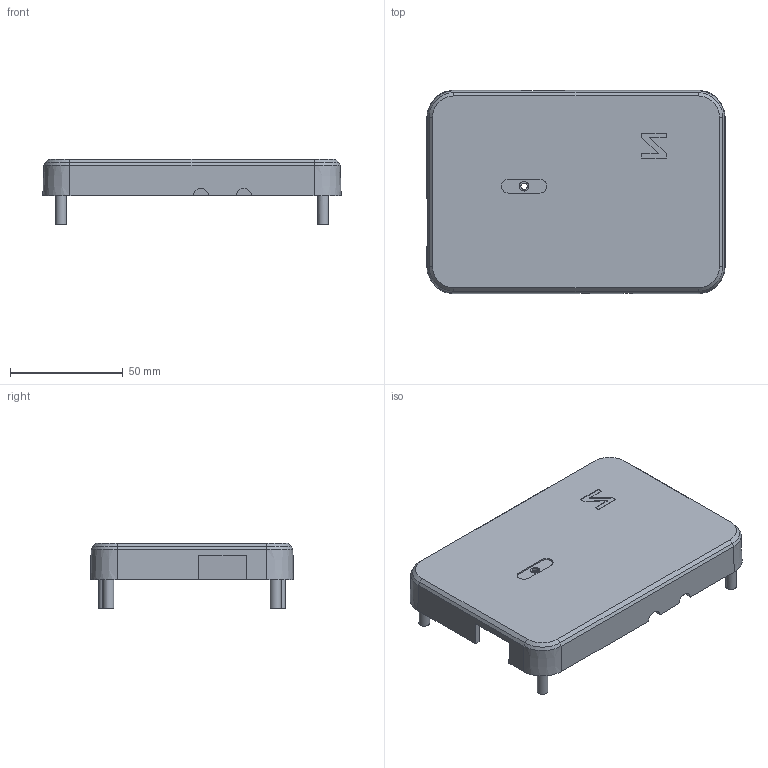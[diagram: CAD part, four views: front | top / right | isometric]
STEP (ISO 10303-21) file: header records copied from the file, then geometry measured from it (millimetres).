
FILE_DESCRIPTION(('FreeCAD Model'),'2;1');
FILE_NAME('Open CASCADE Shape Model','2026-10-24T11:59:21',('FreeCAD'),( 'FreeCAD'),'Open CASCADE STEP processor 7.8','FreeCAD','Unknown');
FILE_SCHEMA(('AUTOMOTIVE_DESIGN { 1 0 10303 214 1 1 1 1 }'));
Length unit declared in the file: millimetre
Products named in the file (1): Open CASCADE STEP translator 7.8 2
Bounding box: 132 x 90 x 29.1 mm (x, y, z)
Volume: 41037.9 mm3; surface area: 36558.7 mm2
Topology: 1 solids, 1 shells, 87 faces, 217 edges, 141 vertices
Faces by surface type: plane 55, cone 18, cylinder 14
Full cylindrical faces by diameter (mm): 2.1 x4, 2.8 x1, 4.2 x1, 4.8 x4
Entity records: 2706 total; most frequent: CARTESIAN_POINT 622, ORIENTED_EDGE 434, DIRECTION 422, EDGE_CURVE 217, AXIS2_PLACEMENT_3D 153, VERTEX_POINT 141, LINE 116, VECTOR 116
